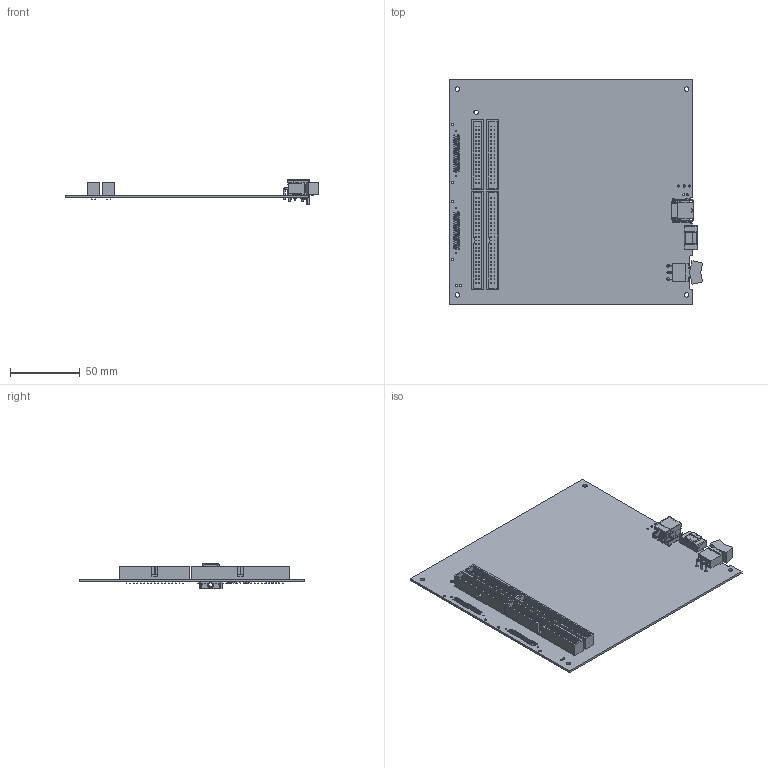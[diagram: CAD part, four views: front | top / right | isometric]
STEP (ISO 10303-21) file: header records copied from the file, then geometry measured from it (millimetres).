
FILE_DESCRIPTION((''),'2;1');
FILE_NAME('CU_6356_6366_OEM','2012-04-19T',('dkendric'),(''),'PRO/ENGINEER BY PARAMETRIC TECHNOLOGY CORPORATION, 2010230','PRO/ENGINEER BY PARAMETRIC TECHNOLOGY CORPORATION, 2010230','');
FILE_SCHEMA(('CONFIG_CONTROL_DESIGN'));
Products named in the file (1): CU_6356_6366_OEM
Bounding box: 182.3 x 162.56 x 18.36 mm (x, y, z)
Volume: 59412.7 mm3; surface area: 76975.8 mm2
Topology: 3 solids, 4 shells, 4348 faces, 11874 edges, 7848 vertices
Faces by surface type: plane 3094, cylinder 1196, bspline 40, torus 10, sphere 4, cone 2, extrusion 2
Entity records: 138542 total; most frequent: CARTESIAN_POINT 25553, ORIENTED_EDGE 23668, DIRECTION 22788, EDGE_CURVE 11834, VECTOR 9234, LINE 9232, VERTEX_POINT 7886, AXIS2_PLACEMENT_3D 6777
